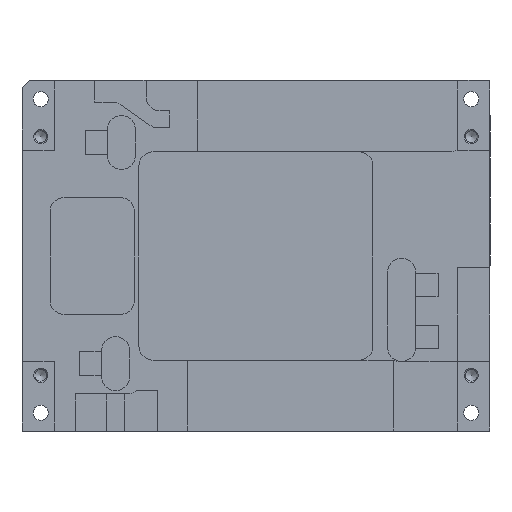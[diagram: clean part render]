
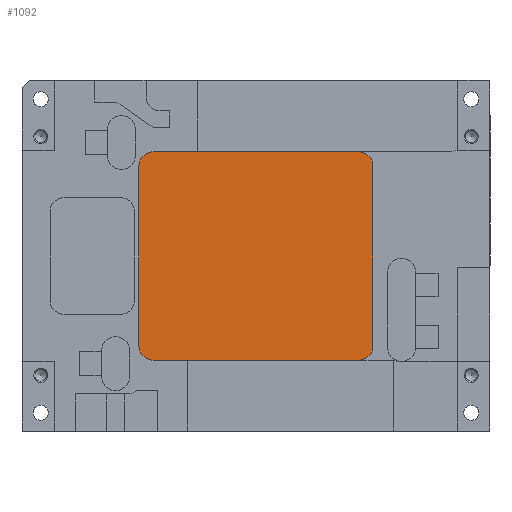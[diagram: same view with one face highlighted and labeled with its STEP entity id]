
A CAD part, left-side view. The second image highlights one B-rep face of the part: STEP entity #1092.
In plain terms, the highlighted planar face has unit normal (-1, 0, 0).
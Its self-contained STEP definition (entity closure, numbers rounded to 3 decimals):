
#20 = CARTESIAN_POINT ( 'NONE',  ( 4.01, 22., -22.25 ) ) ;
#171 = CARTESIAN_POINT ( 'NONE',  ( 4.01, -25., 19.25 ) ) ;
#293 = VERTEX_POINT ( 'NONE', #11993 ) ;
#474 = VECTOR ( 'NONE', #2863, 1000. ) ;
#1092 = ADVANCED_FACE ( 'NONE', ( #8054 ), #4087, .T. ) ;
#1247 = EDGE_LOOP ( 'NONE', ( #16628, #1369, #14972, #3507, #16554, #1895, #9062, #16423 ) ) ;
#1369 = ORIENTED_EDGE ( 'NONE', *, *, #10655, .T. ) ;
#1572 = DIRECTION ( 'NONE',  ( 0., -1., 0. ) ) ;
#1834 = LINE ( 'NONE', #9496, #9350 ) ;
#1895 = ORIENTED_EDGE ( 'NONE', *, *, #9534, .T. ) ;
#2450 = LINE ( 'NONE', #9540, #2652 ) ;
#2652 = VECTOR ( 'NONE', #2994, 1000. ) ;
#2863 = DIRECTION ( 'NONE',  ( 0., 0., -1. ) ) ;
#2947 = VECTOR ( 'NONE', #5478, 1000. ) ;
#2994 = DIRECTION ( 'NONE',  ( 0., 1., 0. ) ) ;
#3408 = CARTESIAN_POINT ( 'NONE',  ( 4.01, 22., 19.25 ) ) ;
#3507 = ORIENTED_EDGE ( 'NONE', *, *, #14558, .T. ) ;
#3764 = DIRECTION ( 'NONE',  ( 0., 0., 1. ) ) ;
#4087 = PLANE ( 'NONE',  #8921 ) ;
#4196 = CARTESIAN_POINT ( 'NONE',  ( 4.01, 0., 0. ) ) ;
#4254 = DIRECTION ( 'NONE',  ( -1., 0., 0. ) ) ;
#4549 = VERTEX_POINT ( 'NONE', #14444 ) ;
#4666 = VERTEX_POINT ( 'NONE', #9507 ) ;
#4729 = EDGE_CURVE ( 'NONE', #4549, #17274, #6313, .T. ) ;
#5061 = CARTESIAN_POINT ( 'NONE',  ( 4.01, 25., 19.25 ) ) ;
#5261 = DIRECTION ( 'NONE',  ( -1., 0., 0. ) ) ;
#5478 = DIRECTION ( 'NONE',  ( 0., 0., 1. ) ) ;
#5537 = AXIS2_PLACEMENT_3D ( 'NONE', #3408, #15537, #12818 ) ;
#6313 = LINE ( 'NONE', #14848, #2947 ) ;
#6699 = CARTESIAN_POINT ( 'NONE',  ( 4.01, 25., -22.25 ) ) ;
#6851 = CIRCLE ( 'NONE', #11670, 3. ) ;
#7000 = CIRCLE ( 'NONE', #7743, 3. ) ;
#7451 = VERTEX_POINT ( 'NONE', #20 ) ;
#7742 = CARTESIAN_POINT ( 'NONE',  ( 4.01, -22., 19.25 ) ) ;
#7743 = AXIS2_PLACEMENT_3D ( 'NONE', #7742, #17074, #16959 ) ;
#8015 = LINE ( 'NONE', #6699, #474 ) ;
#8054 = FACE_OUTER_BOUND ( 'NONE', #1247, .T. ) ;
#8254 = DIRECTION ( 'NONE',  ( 0., 0., 1. ) ) ;
#8921 = AXIS2_PLACEMENT_3D ( 'NONE', #4196, #4254, #8254 ) ;
#8934 = EDGE_CURVE ( 'NONE', #13352, #4549, #9978, .T. ) ;
#9062 = ORIENTED_EDGE ( 'NONE', *, *, #17299, .T. ) ;
#9180 = EDGE_CURVE ( 'NONE', #293, #4666, #2450, .T. ) ;
#9350 = VECTOR ( 'NONE', #1572, 1000. ) ;
#9496 = CARTESIAN_POINT ( 'NONE',  ( 4.01, 25., -22.25 ) ) ;
#9507 = CARTESIAN_POINT ( 'NONE',  ( 4.01, 22., 22.25 ) ) ;
#9534 = EDGE_CURVE ( 'NONE', #17063, #7451, #6851, .T. ) ;
#9540 = CARTESIAN_POINT ( 'NONE',  ( 4.01, 25., 22.25 ) ) ;
#9978 = CIRCLE ( 'NONE', #10032, 3. ) ;
#10032 = AXIS2_PLACEMENT_3D ( 'NONE', #10319, #13039, #3764 ) ;
#10319 = CARTESIAN_POINT ( 'NONE',  ( 4.01, -22., -19.25 ) ) ;
#10655 = EDGE_CURVE ( 'NONE', #17274, #293, #7000, .T. ) ;
#11168 = CIRCLE ( 'NONE', #5537, 3. ) ;
#11670 = AXIS2_PLACEMENT_3D ( 'NONE', #14514, #5261, #14633 ) ;
#11993 = CARTESIAN_POINT ( 'NONE',  ( 4.01, -22., 22.25 ) ) ;
#12120 = EDGE_CURVE ( 'NONE', #17208, #17063, #8015, .T. ) ;
#12818 = DIRECTION ( 'NONE',  ( 0., 0., 1. ) ) ;
#13039 = DIRECTION ( 'NONE',  ( -1., 0., 0. ) ) ;
#13352 = VERTEX_POINT ( 'NONE', #16685 ) ;
#14209 = CARTESIAN_POINT ( 'NONE',  ( 4.01, 25., -19.25 ) ) ;
#14444 = CARTESIAN_POINT ( 'NONE',  ( 4.01, -25., -19.25 ) ) ;
#14514 = CARTESIAN_POINT ( 'NONE',  ( 4.01, 22., -19.25 ) ) ;
#14558 = EDGE_CURVE ( 'NONE', #4666, #17208, #11168, .T. ) ;
#14633 = DIRECTION ( 'NONE',  ( 0., 0., 1. ) ) ;
#14848 = CARTESIAN_POINT ( 'NONE',  ( 4.01, -25., -22.25 ) ) ;
#14972 = ORIENTED_EDGE ( 'NONE', *, *, #9180, .T. ) ;
#15537 = DIRECTION ( 'NONE',  ( -1., 0., 0. ) ) ;
#16423 = ORIENTED_EDGE ( 'NONE', *, *, #8934, .T. ) ;
#16554 = ORIENTED_EDGE ( 'NONE', *, *, #12120, .T. ) ;
#16628 = ORIENTED_EDGE ( 'NONE', *, *, #4729, .T. ) ;
#16685 = CARTESIAN_POINT ( 'NONE',  ( 4.01, -22., -22.25 ) ) ;
#16959 = DIRECTION ( 'NONE',  ( 0., 0., 1. ) ) ;
#17063 = VERTEX_POINT ( 'NONE', #14209 ) ;
#17074 = DIRECTION ( 'NONE',  ( -1., 0., 0. ) ) ;
#17208 = VERTEX_POINT ( 'NONE', #5061 ) ;
#17274 = VERTEX_POINT ( 'NONE', #171 ) ;
#17299 = EDGE_CURVE ( 'NONE', #7451, #13352, #1834, .T. ) ;
